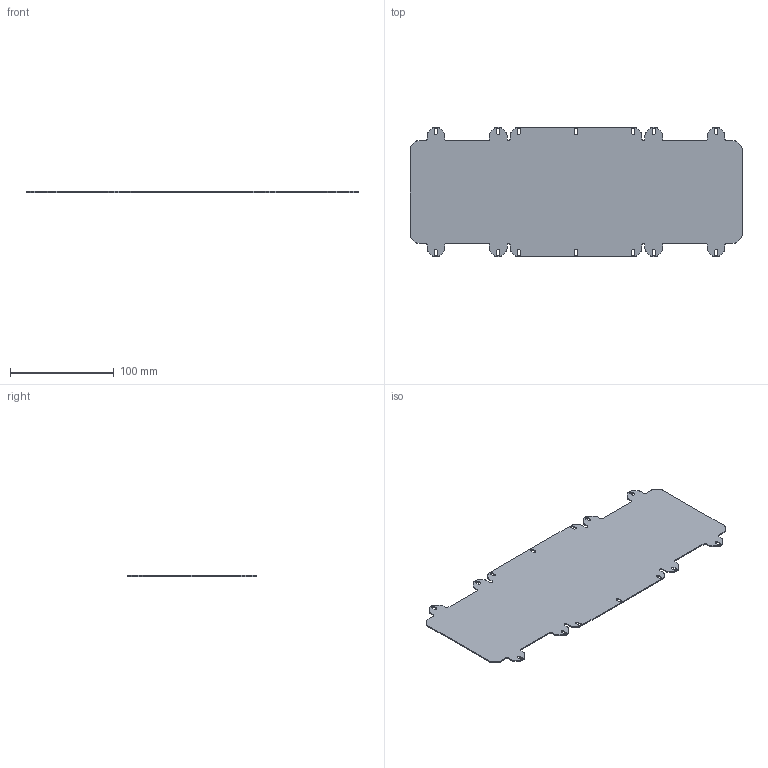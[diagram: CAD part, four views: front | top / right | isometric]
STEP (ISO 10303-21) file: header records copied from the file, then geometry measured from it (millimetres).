
FILE_DESCRIPTION(/* description */ ('Unknown'),/* implementation_level */ '2;1');
FILE_NAME(/* name */ 'PSM07_cut',/* time_stamp */ '2025-10-07T10:38:15+02:00',/* author */ ('Unknown'),/* organization */ ('Unknown'),/* preprocessor_version */ 'ST-DEVELOPER v19.4',/* originating_system */ 'Solid Edge',/* authorisation */ 'Unknown');
FILE_SCHEMA (('AUTOMOTIVE_DESIGN {1 0 10303 214 3 1 1}'));
Length unit declared in the file: millimetre
Products named in the file (1): PSM07_cut
Bounding box: 320 x 125 x 1 mm (x, y, z)
Volume: 36086.2 mm3; surface area: 73380.8 mm2
Topology: 1 solids, 1 shells, 186 faces, 552 edges, 368 vertices
Faces by surface type: plane 94, cylinder 92
Entity records: 6366 total; most frequent: DIRECTION 1110, CARTESIAN_POINT 1107, ORIENTED_EDGE 1104, EDGE_CURVE 552, AXIS2_PLACEMENT_3D 371, LINE 368, VECTOR 368, VERTEX_POINT 368
